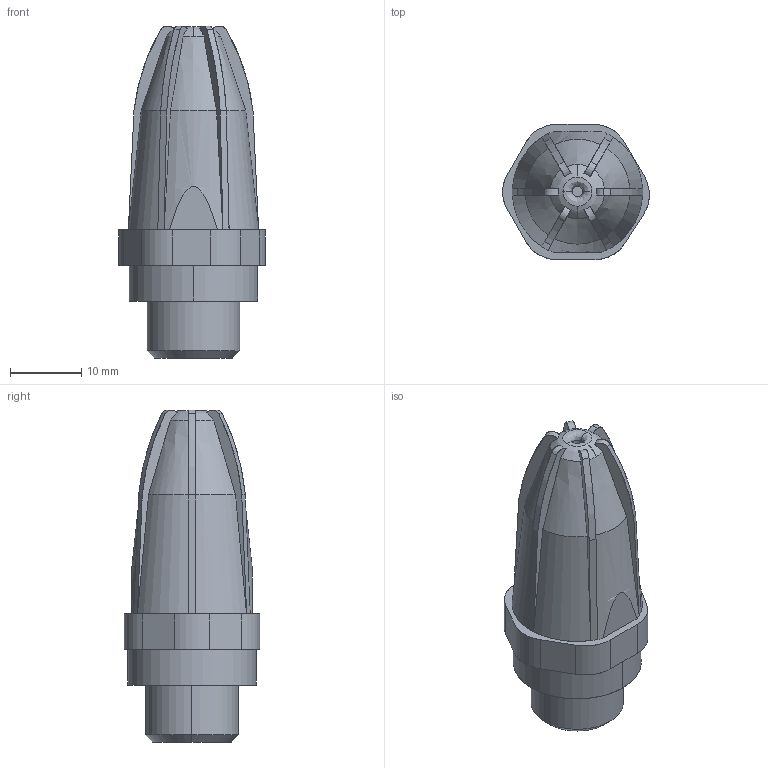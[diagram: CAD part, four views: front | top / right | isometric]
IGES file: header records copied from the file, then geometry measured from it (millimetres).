
Start section: SolidWorks IGES file using analytic representation for surfaces
Global section: file name: G:\Silvent\Ritningar\Övrigt\IGES\Silvent 209L.IGS; native system: SolidWorks 2006 by SolidWorks Corporation; preprocessor: SolidWorks 2006 by SolidWorks Corporation; author: SilvRaTi; date: 061220.092144; units: millimetre
Bounding box: 20.62 x 19 x 46.65 mm (x, y, z)
Surface area: 3709.2 mm2 (no closed solid volume)
Topology: 0 solids, 0 shells, 78 faces, 940 edges, 940 vertices
Faces by surface type: revolution 41, bspline 37
